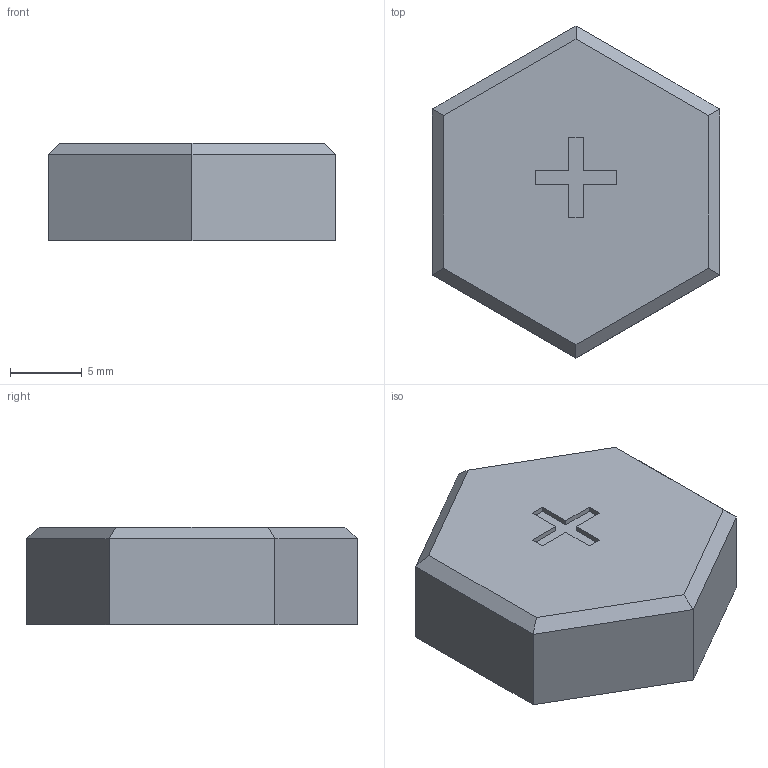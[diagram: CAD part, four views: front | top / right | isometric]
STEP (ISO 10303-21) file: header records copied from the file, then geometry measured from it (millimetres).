
FILE_DESCRIPTION(('Open CASCADE Model'),'2;1');
FILE_NAME('Open CASCADE Shape Model','2026-09-17T20:09:27',('Author'),( 'Open CASCADE'),'Open CASCADE STEP processor 7.7','Open CASCADE 7.7' ,'Unknown');
FILE_SCHEMA(('AUTOMOTIVE_DESIGN { 1 0 10303 214 1 1 1 1 }'));
Length unit declared in the file: millimetre
Products named in the file (1): Open CASCADE STEP translator 7.7 3
Bounding box: 20 x 23.09 x 6.8 mm (x, y, z)
Volume: 1034.2 mm3; surface area: 1678 mm2
Topology: 1 solids, 1 shells, 49 faces, 123 edges, 80 vertices
Faces by surface type: plane 48, cylinder 1
Full cylindrical faces by diameter (mm): 7.2 x1
Entity records: 2967 total; most frequent: CARTESIAN_POINT 581, DIRECTION 394, LINE 289, VECTOR 289, ORIENTED_EDGE 246, PCURVE 246, DEFINITIONAL_REPRESENTATION 246, EDGE_CURVE 123
